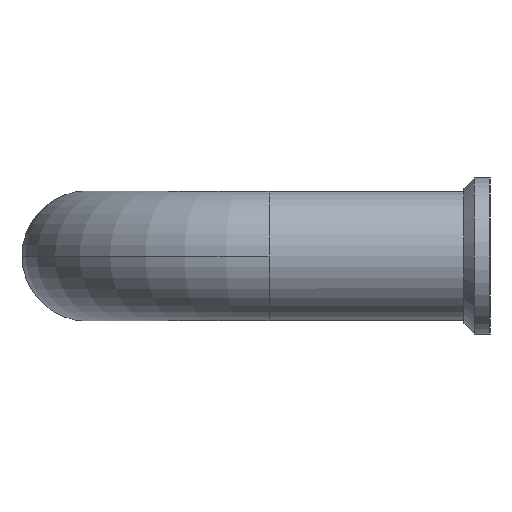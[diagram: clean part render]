
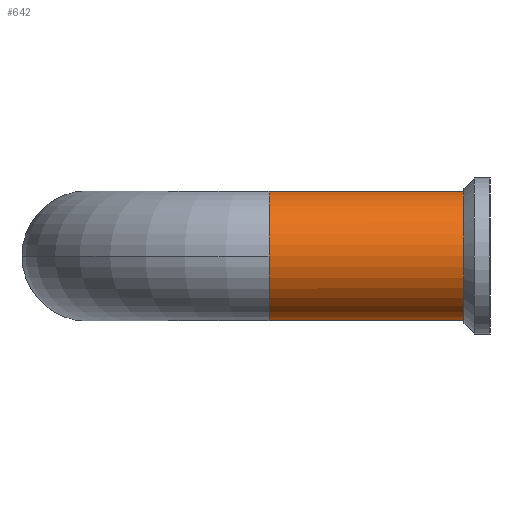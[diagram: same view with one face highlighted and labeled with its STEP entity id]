
A CAD part, left-side view. The second image highlights one B-rep face of the part: STEP entity #642.
In plain terms, the highlighted cylindrical face has radius 5 mm (diameter 10 mm), a partial arc.
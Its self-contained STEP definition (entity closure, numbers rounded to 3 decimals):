
#1 = CARTESIAN_POINT ( 'NONE',  ( -60., 15., 0. ) ) ;
#12 = CARTESIAN_POINT ( 'NONE',  ( -65., 15., 0. ) ) ;
#23 = VERTEX_POINT ( 'NONE', #450 ) ;
#76 = EDGE_CURVE ( 'NONE', #865, #637, #505, .T. ) ;
#114 = DIRECTION ( 'NONE',  ( 0., 0., -1. ) ) ;
#141 = CARTESIAN_POINT ( 'NONE',  ( -60., 15., 5. ) ) ;
#144 = VECTOR ( 'NONE', #282, 1000. ) ;
#154 = CIRCLE ( 'NONE', #713, 5. ) ;
#162 = EDGE_CURVE ( 'NONE', #689, #724, #491, .T. ) ;
#168 = ORIENTED_EDGE ( 'NONE', *, *, #449, .F. ) ;
#171 = CARTESIAN_POINT ( 'NONE',  ( -60., 15., 5. ) ) ;
#180 = DIRECTION ( 'NONE',  ( 0., -1., 0. ) ) ;
#186 = ORIENTED_EDGE ( 'NONE', *, *, #537, .F. ) ;
#247 = VECTOR ( 'NONE', #801, 1000. ) ;
#260 = CARTESIAN_POINT ( 'NONE',  ( -60., 0., -5. ) ) ;
#282 = DIRECTION ( 'NONE',  ( 0., -1., 0. ) ) ;
#309 = DIRECTION ( 'NONE',  ( 0., 0., -1. ) ) ;
#312 = AXIS2_PLACEMENT_3D ( 'NONE', #615, #754, #351 ) ;
#318 = EDGE_LOOP ( 'NONE', ( #168, #396, #186, #575, #653 ) ) ;
#340 = DIRECTION ( 'NONE',  ( 0., 1., 0. ) ) ;
#351 = DIRECTION ( 'NONE',  ( 0., 0., 1. ) ) ;
#396 = ORIENTED_EDGE ( 'NONE', *, *, #76, .F. ) ;
#399 = DIRECTION ( 'NONE',  ( 0., 0., 1. ) ) ;
#449 = EDGE_CURVE ( 'NONE', #637, #23, #671, .T. ) ;
#450 = CARTESIAN_POINT ( 'NONE',  ( -60., 0., 5. ) ) ;
#480 = FACE_OUTER_BOUND ( 'NONE', #318, .T. ) ;
#490 = AXIS2_PLACEMENT_3D ( 'NONE', #1, #340, #399 ) ;
#491 = LINE ( 'NONE', #755, #144 ) ;
#505 = CIRCLE ( 'NONE', #490, 5. ) ;
#537 = EDGE_CURVE ( 'NONE', #689, #865, #775, .T. ) ;
#575 = ORIENTED_EDGE ( 'NONE', *, *, #162, .T. ) ;
#615 = CARTESIAN_POINT ( 'NONE',  ( -60., 15., 0. ) ) ;
#626 = AXIS2_PLACEMENT_3D ( 'NONE', #696, #180, #309 ) ;
#637 = VERTEX_POINT ( 'NONE', #171 ) ;
#642 = ADVANCED_FACE ( 'NONE', ( #480 ), #821, .T. ) ;
#643 = CARTESIAN_POINT ( 'NONE',  ( -60., 0., 0. ) ) ;
#653 = ORIENTED_EDGE ( 'NONE', *, *, #691, .F. ) ;
#671 = LINE ( 'NONE', #141, #247 ) ;
#689 = VERTEX_POINT ( 'NONE', #699 ) ;
#691 = EDGE_CURVE ( 'NONE', #23, #724, #154, .T. ) ;
#696 = CARTESIAN_POINT ( 'NONE',  ( -60., 15., 0. ) ) ;
#699 = CARTESIAN_POINT ( 'NONE',  ( -60., 15., -5. ) ) ;
#708 = DIRECTION ( 'NONE',  ( 0., -1., 0. ) ) ;
#713 = AXIS2_PLACEMENT_3D ( 'NONE', #643, #708, #114 ) ;
#724 = VERTEX_POINT ( 'NONE', #260 ) ;
#754 = DIRECTION ( 'NONE',  ( 0., 1., 0. ) ) ;
#755 = CARTESIAN_POINT ( 'NONE',  ( -60., 15., -5. ) ) ;
#775 = CIRCLE ( 'NONE', #312, 5. ) ;
#801 = DIRECTION ( 'NONE',  ( 0., -1., 0. ) ) ;
#821 = CYLINDRICAL_SURFACE ( 'NONE', #626, 5. ) ;
#865 = VERTEX_POINT ( 'NONE', #12 ) ;
